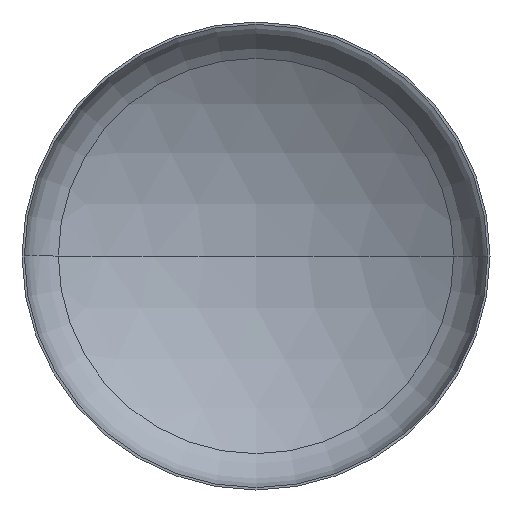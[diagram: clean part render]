
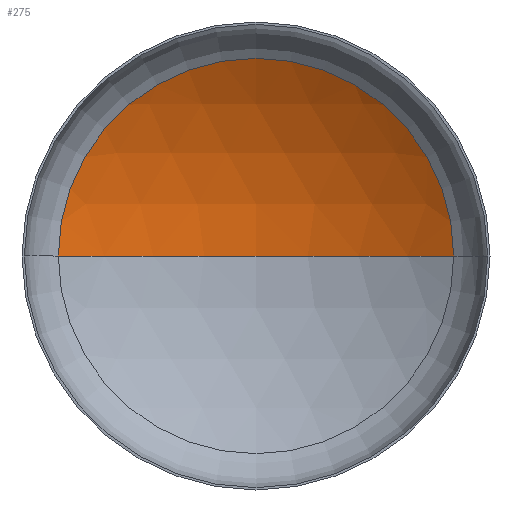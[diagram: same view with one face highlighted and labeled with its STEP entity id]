
A CAD part, front view. The second image highlights one B-rep face of the part: STEP entity #275.
In plain terms, the highlighted spherical face has radius 3200 mm.
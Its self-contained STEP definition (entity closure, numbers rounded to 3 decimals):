
#3 = AXIS2_PLACEMENT_3D ( 'NONE', #409, #202, #102 ) ;
#8 = EDGE_LOOP ( 'NONE', ( #16, #11, #96 ) ) ;
#11 = ORIENTED_EDGE ( 'NONE', *, *, #194, .T. ) ;
#16 = ORIENTED_EDGE ( 'NONE', *, *, #364, .F. ) ;
#32 = DIRECTION ( 'NONE',  ( -1., 0., 0. ) ) ;
#57 = VERTEX_POINT ( 'NONE', #278 ) ;
#59 = CARTESIAN_POINT ( 'NONE',  ( 0., -2135.222, 0. ) ) ;
#67 = VERTEX_POINT ( 'NONE', #295 ) ;
#70 = VERTEX_POINT ( 'NONE', #246 ) ;
#78 = AXIS2_PLACEMENT_3D ( 'NONE', #59, #172, #32 ) ;
#79 = CIRCLE ( 'NONE', #121, 1689.749 ) ;
#96 = ORIENTED_EDGE ( 'NONE', *, *, #191, .T. ) ;
#102 = DIRECTION ( 'NONE',  ( 1., 0., 0. ) ) ;
#116 = AXIS2_PLACEMENT_3D ( 'NONE', #221, #223, #261 ) ;
#121 = AXIS2_PLACEMENT_3D ( 'NONE', #230, #180, #198 ) ;
#136 = CIRCLE ( 'NONE', #3, 3200. ) ;
#172 = DIRECTION ( 'NONE',  ( 0., 0., -1. ) ) ;
#180 = DIRECTION ( 'NONE',  ( 0., -1., 0. ) ) ;
#191 = EDGE_CURVE ( 'NONE', #57, #70, #79, .T. ) ;
#194 = EDGE_CURVE ( 'NONE', #67, #57, #371, .T. ) ;
#198 = DIRECTION ( 'NONE',  ( 1., 0., 0. ) ) ;
#202 = DIRECTION ( 'NONE',  ( 0., 0., 1. ) ) ;
#221 = CARTESIAN_POINT ( 'NONE',  ( 0., -2135.222, 0. ) ) ;
#223 = DIRECTION ( 'NONE',  ( 0., 0., -1. ) ) ;
#230 = CARTESIAN_POINT ( 'NONE',  ( 0., 582.268, 0. ) ) ;
#241 = SPHERICAL_SURFACE ( 'NONE', #78, 3200. ) ;
#246 = CARTESIAN_POINT ( 'NONE',  ( -1689.749, 582.268, 0. ) ) ;
#261 = DIRECTION ( 'NONE',  ( -1., 0., 0. ) ) ;
#275 = ADVANCED_FACE ( 'NONE', ( #358 ), #241, .F. ) ;
#278 = CARTESIAN_POINT ( 'NONE',  ( 1689.749, 582.268, 0. ) ) ;
#295 = CARTESIAN_POINT ( 'NONE',  ( 0., 1064.778, 0. ) ) ;
#358 = FACE_OUTER_BOUND ( 'NONE', #8, .T. ) ;
#364 = EDGE_CURVE ( 'NONE', #67, #70, #136, .T. ) ;
#371 = CIRCLE ( 'NONE', #116, 3200. ) ;
#409 = CARTESIAN_POINT ( 'NONE',  ( 0., -2135.222, 0. ) ) ;
